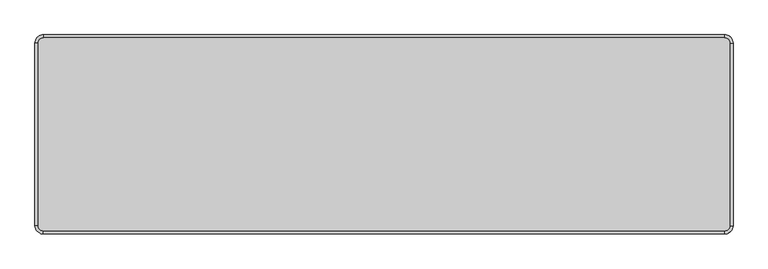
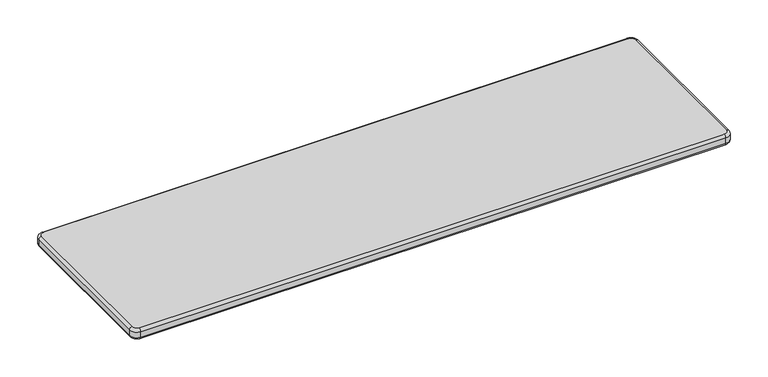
"""IFC4 building model written with IfcOpenShell, lengths in millimetres: furniture geometry, SSL-Childcraft_Outdoor-Bench : 2161365."""

from ifc_helpers import new_model, si_unit, point, frame, origin, place, context, project, spatial, circle_curve, ellipse_curve, trimmed, source, transform, mapped, element, save
from ifc_brep_helpers import plane_surface, cylinder_surface, revolved_surface, advanced_brep


def furniture_c4f83efa(model_context):
    return source(origin(), model_context, "Body", "AdvancedBrep", [
        advanced_brep(
        [(1066.8, -12.7, 351.2687617), (1054.1, 0.0, 351.2687617), (1054.1, -4.3312383, 355.6), (1062.4687617, -12.7, 355.6), (1066.8, -12.7, 340.915625), (1054.1, 0.0, 340.915625), (1062.434375, -12.7, 336.55), (1054.1, -4.365625, 336.55), (1062.4687617, -292.1, 355.6), (1066.8, -292.1, 351.2687617), (1066.8, -292.1, 340.915625), (1062.434375, -292.1, 336.55), (1054.1, -300.4687617, 355.6), (1054.1, -304.8, 351.2687617), (1054.1, -304.8, 340.915625), (1054.1, -300.434375, 336.55), (12.7, -300.4687617, 355.6), (12.7, -304.8, 351.2687617), (12.7, -304.8, 340.915625), (12.7, -300.434375, 336.55), (4.3312383, -292.1, 355.6), (0.0, -292.1, 351.2687617), (0.0, -292.1, 340.915625), (4.365625, -292.1, 336.55), (4.3312383, -12.7, 355.6), (0.0, -12.7, 351.2687617), (0.0, -12.7, 340.915625), (4.365625, -12.7, 336.55), (12.7, -4.3312383, 355.6), (12.7, 0.0, 351.2687617), (12.7, 0.0, 340.915625), (12.7, -4.365625, 336.55)],
        [
            (0, 1, circle_curve(frame((1054.1, -12.7, 351.2687617), z_axis=(0.0, 0.0, 1.0), x_axis=(0.0, 1.0, 0.0)), 12.7)),
            (1, 2, circle_curve(frame((1054.1, -4.3312383, 351.2687617), z_axis=(1.0, 0.0, 0.0), x_axis=(0.0, 1.0, 0.0)), 4.3312383)),
            (2, 3, circle_curve(frame((1054.1, -12.7, 355.6), z_axis=(0.0, 0.0, -1.0), x_axis=(0.0, 1.0, 0.0)), 8.3687617)),
            (3, 0, circle_curve(frame((1062.4687617, -12.7, 351.2687617), z_axis=(0.0, 1.0, 0.0), x_axis=(1.0, 0.0, 0.0)), 4.3312383)),
            (0, 4),
            (4, 5, circle_curve(frame((1054.1, -12.7, 340.915625), z_axis=(0.0, 0.0, 1.0), x_axis=(0.0, 1.0, 0.0)), 12.7)),
            (5, 1),
            (4, 6, circle_curve(frame((1062.434375, -12.7, 340.915625), z_axis=(0.0, 1.0, 0.0), x_axis=(1.0, 0.0, 0.0)), 4.365625)),
            (6, 7, circle_curve(frame((1054.1, -12.7, 336.55), z_axis=(0.0, 0.0, 1.0), x_axis=(0.0, 1.0, 0.0)), 8.334375)),
            (7, 5, circle_curve(frame((1054.1, -4.365625, 340.915625), z_axis=(1.0, 0.0, 0.0), x_axis=(0.0, 1.0, 0.0)), 4.365625)),
            (3, 8),
            (8, 9, circle_curve(frame((1062.4687617, -292.1, 351.2687617), z_axis=(0.0, 1.0, 0.0), x_axis=(1.0, 0.0, 0.0)), 4.3312383)),
            (9, 0),
            (9, 10),
            (10, 4),
            (10, 11, circle_curve(frame((1062.434375, -292.1, 340.915625), z_axis=(0.0, 1.0, 0.0), x_axis=(1.0, 0.0, 0.0)), 4.365625)),
            (11, 6),
            (8, 12, circle_curve(frame((1054.1, -292.1, 355.6), z_axis=(0.0, 0.0, -1.0), x_axis=(1.0, 0.0, 0.0)), 8.3687617)),
            (12, 13, circle_curve(frame((1054.1, -300.4687617, 351.2687617), z_axis=(1.0, 0.0, 0.0), x_axis=(0.0, -1.0, 0.0)), 4.3312383)),
            (13, 9, circle_curve(frame((1054.1, -292.1, 351.2687617), z_axis=(0.0, 0.0, 1.0), x_axis=(1.0, 0.0, 0.0)), 12.7)),
            (13, 14),
            (14, 10, circle_curve(frame((1054.1, -292.1, 340.915625), z_axis=(0.0, 0.0, 1.0), x_axis=(1.0, 0.0, 0.0)), 12.7)),
            (14, 15, circle_curve(frame((1054.1, -300.434375, 340.915625), z_axis=(1.0, 0.0, 0.0), x_axis=(0.0, -1.0, 0.0)), 4.365625)),
            (15, 11, circle_curve(frame((1054.1, -292.1, 336.55), z_axis=(0.0, 0.0, 1.0), x_axis=(1.0, 0.0, 0.0)), 8.334375)),
            (12, 16),
            (16, 17, circle_curve(frame((12.7, -300.4687617, 351.2687617), z_axis=(1.0, 0.0, 0.0), x_axis=(0.0, -1.0, 0.0)), 4.3312383)),
            (17, 13),
            (17, 18),
            (18, 14),
            (18, 19, circle_curve(frame((12.7, -300.434375, 340.915625), z_axis=(1.0, 0.0, 0.0), x_axis=(0.0, -1.0, 0.0)), 4.365625)),
            (19, 15),
            (16, 20, circle_curve(frame((12.7, -292.1, 355.6), z_axis=(0.0, 0.0, -1.0), x_axis=(0.0, -1.0, 0.0)), 8.3687617)),
            (20, 21, circle_curve(frame((4.3312383, -292.1, 351.2687617), z_axis=(0.0, -1.0, 0.0), x_axis=(-1.0, 0.0, 0.0)), 4.3312383)),
            (21, 17, circle_curve(frame((12.7, -292.1, 351.2687617), z_axis=(0.0, 0.0, 1.0), x_axis=(0.0, -1.0, 0.0)), 12.7)),
            (21, 22),
            (22, 18, circle_curve(frame((12.7, -292.1, 340.915625), z_axis=(0.0, 0.0, 1.0), x_axis=(0.0, -1.0, 0.0)), 12.7)),
            (22, 23, circle_curve(frame((4.365625, -292.1, 340.915625), z_axis=(0.0, -1.0, 0.0), x_axis=(-1.0, 0.0, 0.0)), 4.365625)),
            (23, 19, circle_curve(frame((12.7, -292.1, 336.55), z_axis=(0.0, 0.0, 1.0), x_axis=(0.0, -1.0, 0.0)), 8.334375)),
            (20, 24),
            (24, 25, circle_curve(frame((4.3312383, -12.7, 351.2687617), z_axis=(0.0, -1.0, 0.0), x_axis=(-1.0, 0.0, 0.0)), 4.3312383)),
            (25, 21),
            (25, 26),
            (26, 22),
            (26, 27, circle_curve(frame((4.365625, -12.7, 340.915625), z_axis=(0.0, -1.0, 0.0), x_axis=(-1.0, 0.0, 0.0)), 4.365625)),
            (27, 23),
            (24, 28, circle_curve(frame((12.7, -12.7, 355.6), z_axis=(0.0, 0.0, -1.0), x_axis=(-1.0, 0.0, 0.0)), 8.3687617)),
            (28, 29, circle_curve(frame((12.7, -4.3312383, 351.2687617), z_axis=(-1.0, 0.0, 0.0), x_axis=(0.0, 1.0, 0.0)), 4.3312383)),
            (29, 25, circle_curve(frame((12.7, -12.7, 351.2687617), z_axis=(0.0, 0.0, 1.0), x_axis=(-1.0, 0.0, 0.0)), 12.7)),
            (29, 30),
            (30, 26, circle_curve(frame((12.7, -12.7, 340.915625), z_axis=(0.0, 0.0, 1.0), x_axis=(-1.0, 0.0, 0.0)), 12.7)),
            (30, 31, circle_curve(frame((12.7, -4.365625, 340.915625), z_axis=(-1.0, 0.0, 0.0), x_axis=(0.0, 1.0, 0.0)), 4.365625)),
            (31, 27, circle_curve(frame((12.7, -12.7, 336.55), z_axis=(0.0, 0.0, 1.0), x_axis=(-1.0, 0.0, 0.0)), 8.334375)),
            (2, 28),
            (1, 29),
            (5, 30),
            (7, 31),
        ],
        [
            revolved_surface(trimmed(ellipse_curve(frame((1054.1, -4.3312383, 351.2687617), z_axis=(-1.0, 0.0, 0.0), x_axis=(0.0, 1.0, 0.0)), 4.3312383, 4.3312383), [point((1054.1, -4.3312383, 355.6))], [point((1054.1, 0.0, 351.2687617))], True, "CARTESIAN"), (1054.1, -12.7, 0.0), (0.0, 0.0, -1.0)),
            cylinder_surface(frame((1054.1, -12.7, 0.0), z_axis=(0.0, 0.0, -1.0), x_axis=(0.0, 1.0, 0.0)), 12.7),
            revolved_surface(trimmed(ellipse_curve(frame((1054.1, -4.365625, 340.915625), z_axis=(-1.0, 0.0, 0.0), x_axis=(0.0, 1.0, 0.0)), 4.365625, 4.365625), [point((1054.1, 0.0, 340.915625))], [point((1054.1, -4.365625, 336.55))], True, "CARTESIAN"), (1054.1, -12.7, 0.0), (0.0, 0.0, -1.0)),
            cylinder_surface(frame((1062.4687617, -12.7, 351.2687617), z_axis=(0.0, 1.0, 0.0), x_axis=(1.0, 0.0, 0.0)), 4.3312383),
            plane_surface(frame((1066.8, -12.7, 351.2687617), z_axis=(1.0, 0.0, 0.0), x_axis=(0.0, -1.0, 0.0))),
            cylinder_surface(frame((1062.434375, -12.7, 340.915625), z_axis=(0.0, 1.0, 0.0), x_axis=(1.0, 0.0, 0.0)), 4.365625),
            revolved_surface(trimmed(ellipse_curve(frame((1062.4687617, -292.1, 351.2687617), z_axis=(0.0, 1.0, 0.0), x_axis=(1.0, 0.0, 0.0)), 4.3312383, 4.3312383), [point((1062.4687617, -292.1, 355.6))], [point((1066.8, -292.1, 351.2687617))], True, "CARTESIAN"), (1054.1, -292.1, 0.0), (0.0, 0.0, -1.0)),
            cylinder_surface(frame((1054.1, -292.1, 0.0), z_axis=(0.0, 0.0, -1.0), x_axis=(1.0, 0.0, 0.0)), 12.7),
            revolved_surface(trimmed(ellipse_curve(frame((1062.434375, -292.1, 340.915625), z_axis=(0.0, 1.0, 0.0), x_axis=(1.0, 0.0, 0.0)), 4.365625, 4.365625), [point((1066.8, -292.1, 340.915625))], [point((1062.434375, -292.1, 336.55))], True, "CARTESIAN"), (1054.1, -292.1, 0.0), (0.0, 0.0, -1.0)),
            cylinder_surface(frame((1054.1, -300.4687617, 351.2687617), z_axis=(1.0, 0.0, 0.0), x_axis=(0.0, -1.0, 0.0)), 4.3312383),
            plane_surface(frame((1054.1, -304.8, 351.2687617), z_axis=(0.0, -1.0, 0.0), x_axis=(-1.0, 0.0, 0.0))),
            cylinder_surface(frame((1054.1, -300.434375, 340.915625), z_axis=(1.0, 0.0, 0.0), x_axis=(0.0, -1.0, 0.0)), 4.365625),
            revolved_surface(trimmed(ellipse_curve(frame((12.7, -300.4687617, 351.2687617), z_axis=(1.0, 0.0, 0.0), x_axis=(0.0, -1.0, 0.0)), 4.3312383, 4.3312383), [point((12.7, -300.4687617, 355.6))], [point((12.7, -304.8, 351.2687617))], True, "CARTESIAN"), (12.7, -292.1, 0.0), (0.0, 0.0, -1.0)),
            cylinder_surface(frame((12.7, -292.1, 0.0), z_axis=(0.0, 0.0, -1.0), x_axis=(0.0, -1.0, 0.0)), 12.7),
            revolved_surface(trimmed(ellipse_curve(frame((12.7, -300.434375, 340.915625), z_axis=(1.0, 0.0, 0.0), x_axis=(0.0, -1.0, 0.0)), 4.365625, 4.365625), [point((12.7, -304.8, 340.915625))], [point((12.7, -300.434375, 336.55))], True, "CARTESIAN"), (12.7, -292.1, 0.0), (0.0, 0.0, -1.0)),
            cylinder_surface(frame((4.3312383, -292.1, 351.2687617), z_axis=(0.0, -1.0, 0.0), x_axis=(-1.0, 0.0, 0.0)), 4.3312383),
            plane_surface(frame((0.0, -292.1, 351.2687617), z_axis=(-1.0, 0.0, 0.0), x_axis=(0.0, 1.0, 0.0))),
            cylinder_surface(frame((4.365625, -292.1, 340.915625), z_axis=(0.0, -1.0, 0.0), x_axis=(-1.0, 0.0, 0.0)), 4.365625),
            revolved_surface(trimmed(ellipse_curve(frame((4.3312383, -12.7, 351.2687617), z_axis=(0.0, -1.0, 0.0), x_axis=(-1.0, 0.0, 0.0)), 4.3312383, 4.3312383), [point((4.3312383, -12.7, 355.6))], [point((0.0, -12.7, 351.2687617))], True, "CARTESIAN"), (12.7, -12.7, 0.0), (0.0, 0.0, -1.0)),
            cylinder_surface(frame((12.7, -12.7, 0.0), z_axis=(0.0, 0.0, -1.0), x_axis=(-1.0, 0.0, 0.0)), 12.7),
            revolved_surface(trimmed(ellipse_curve(frame((4.365625, -12.7, 340.915625), z_axis=(0.0, -1.0, 0.0), x_axis=(-1.0, 0.0, 0.0)), 4.365625, 4.365625), [point((0.0, -12.7, 340.915625))], [point((4.365625, -12.7, 336.55))], True, "CARTESIAN"), (12.7, -12.7, 0.0), (0.0, 0.0, -1.0)),
            plane_surface(frame((12.7, -5.55625, 355.6), z_axis=(0.0, 0.0, 1.0), x_axis=(1.0, 0.0, 0.0))),
            cylinder_surface(frame((12.7, -4.3312383, 351.2687617), z_axis=(-1.0, 0.0, 0.0), x_axis=(0.0, 1.0, 0.0)), 4.3312383),
            plane_surface(frame((12.7, 0.0, 351.2687617), z_axis=(0.0, 1.0, 0.0), x_axis=(1.0, 0.0, 0.0))),
            cylinder_surface(frame((12.7, -4.365625, 340.915625), z_axis=(-1.0, 0.0, 0.0), x_axis=(0.0, 1.0, 0.0)), 4.365625),
            plane_surface(frame((12.7, -4.365625, 336.55), z_axis=(0.0, 0.0, -1.0), x_axis=(1.0, 0.0, 0.0))),
        ],
        [
            (0, [[1, 2, 3, 4]]),
            (1, [[-1, 5, 6, 7]]),
            (2, [[-6, 8, 9, 10]]),
            (3, [[-4, 11, 12, 13]]),
            (4, [[-5, -13, 14, 15]]),
            (5, [[-8, -15, 16, 17]]),
            (6, [[-12, 18, 19, 20]]),
            (7, [[-14, -20, 21, 22]]),
            (8, [[-16, -22, 23, 24]]),
            (9, [[-19, 25, 26, 27]]),
            (10, [[-21, -27, 28, 29]]),
            (11, [[-23, -29, 30, 31]]),
            (12, [[-26, 32, 33, 34]]),
            (13, [[-28, -34, 35, 36]]),
            (14, [[-30, -36, 37, 38]]),
            (15, [[-33, 39, 40, 41]]),
            (16, [[-35, -41, 42, 43]]),
            (17, [[-37, -43, 44, 45]]),
            (18, [[-40, 46, 47, 48]]),
            (19, [[-42, -48, 49, 50]]),
            (20, [[-44, -50, 51, 52]]),
            (21, [[-3, 53, -46, -39, -32, -25, -18, -11]]),
            (22, [[-2, 54, -47, -53]]),
            (23, [[-7, 55, -49, -54]]),
            (24, [[-10, 56, -51, -55]]),
            (25, [[-9, -17, -24, -31, -38, -45, -52, -56]]),
        ],
    ),
    ])


if __name__ == "__main__":
    model = new_model("IFC4")
    model_context = context("Model", 3, world=origin())
    ifc_project = project(units=[si_unit("LENGTHUNIT", "METRE", prefix="MILLI")], contexts=[model_context])
    site = spatial("IfcSite", under=ifc_project)
    building = spatial("IfcBuilding", under=site)
    placement = place(None, origin())
    furniture_shape = furniture_c4f83efa(model_context)
    element("IfcFurniture", 1, ObjectType="SSL-Childcraft_Outdoor-Bench : 2161365", at=placement, inside=building, context=model_context, shape_type="MappedRepresentation", body=[
        mapped(furniture_shape, transform((0.0, 0.0, 0.0), x_axis=(1.0, 0.0, 0.0), y_axis=(0.0, 1.0, 0.0), z_axis=(0.0, 0.0, 1.0))),
    ])
    save(model, "model.ifc")
